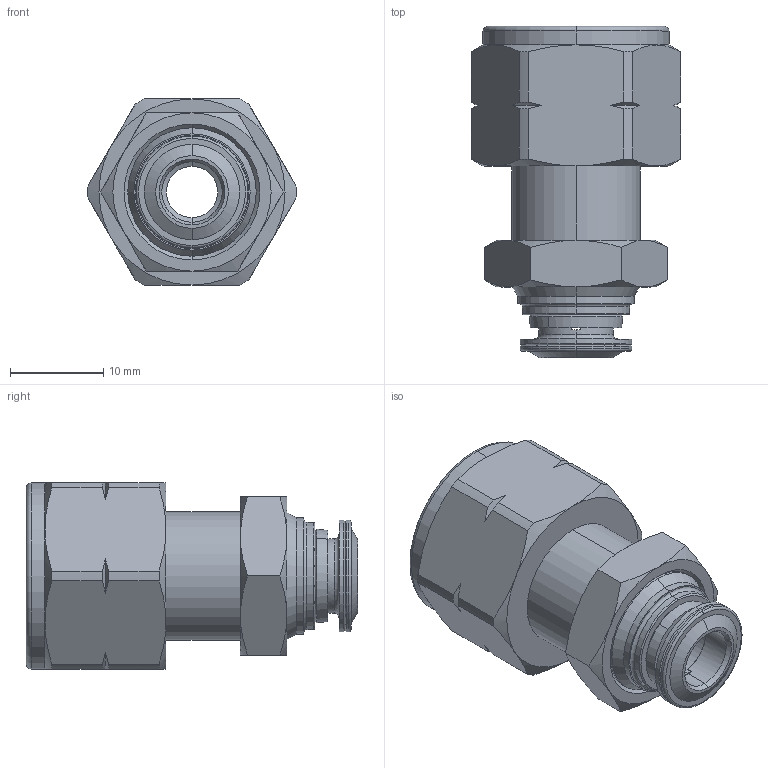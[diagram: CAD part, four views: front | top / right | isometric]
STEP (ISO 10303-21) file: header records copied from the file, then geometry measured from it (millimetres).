
FILE_DESCRIPTION (( 'STEP AP214' ), '1' );
FILE_NAME ('8905500010.STEP', '2019-12-04T13:42:47', ( 'admin' ), ( '' ), 'SwSTEP 2.0', 'SolidWorks 2016', '' );
FILE_SCHEMA (( 'AUTOMOTIVE_DESIGN' ));
Length unit declared in the file: millimetre
Products named in the file (1): 8905500010
Bounding box: 22.5 x 35.6 x 20 mm (x, y, z)
Volume: 5277.3 mm3; surface area: 3821.6 mm2
Topology: 1 solids, 1 shells, 139 faces, 332 edges, 200 vertices
Faces by surface type: cone 64, cylinder 36, plane 29, torus 10
Entity records: 5805 total; most frequent: CARTESIAN_POINT 1044, DIRECTION 692, ORIENTED_EDGE 664, EDGE_CURVE 332, AXIS2_PLACEMENT_3D 296, VERTEX_POINT 200, CIRCLE 156, EDGE_LOOP 150
